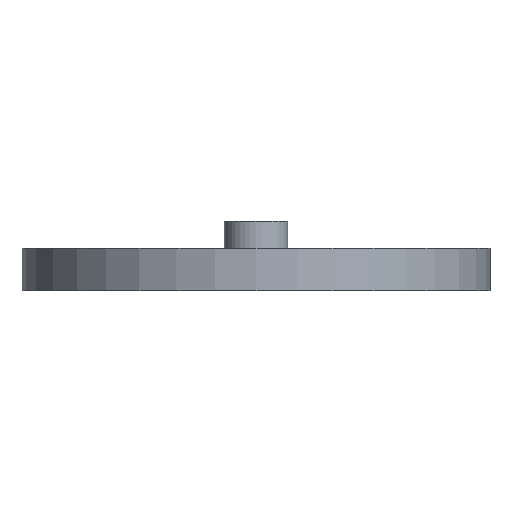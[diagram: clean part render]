
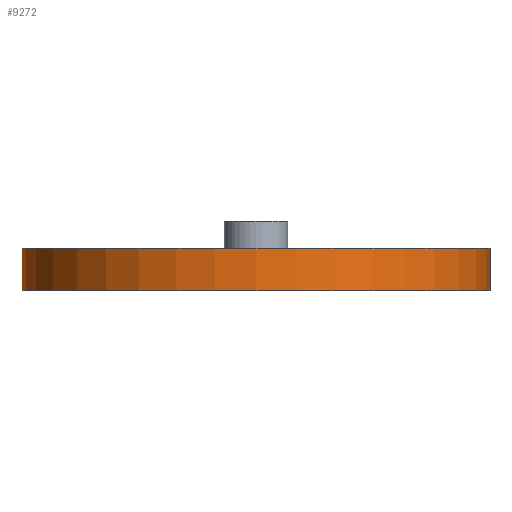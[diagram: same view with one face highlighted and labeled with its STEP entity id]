
A CAD part, left-side view. The second image highlights one B-rep face of the part: STEP entity #9272.
In plain terms, the highlighted cylindrical face has radius 44 mm (diameter 88 mm), a partial arc.
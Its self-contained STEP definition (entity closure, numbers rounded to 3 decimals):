
#596 = CARTESIAN_POINT ( 'NONE',  ( 0., -4., -44. ) ) ;
#2389 = EDGE_LOOP ( 'NONE', ( #16414, #29527, #19819, #5897 ) ) ;
#3748 = CARTESIAN_POINT ( 'NONE',  ( 0., -4., 44. ) ) ;
#3775 = VECTOR ( 'NONE', #11572, 1000. ) ;
#3896 = CARTESIAN_POINT ( 'NONE',  ( 0., 4., -44. ) ) ;
#5549 = DIRECTION ( 'NONE',  ( 0., 0., -1. ) ) ;
#5571 = VERTEX_POINT ( 'NONE', #3748 ) ;
#5897 = ORIENTED_EDGE ( 'NONE', *, *, #8162, .F. ) ;
#6513 = CARTESIAN_POINT ( 'NONE',  ( 0., 4., 0. ) ) ;
#8162 = EDGE_CURVE ( 'NONE', #18211, #31028, #21534, .T. ) ;
#8750 = CIRCLE ( 'NONE', #20131, 44. ) ;
#9213 = EDGE_CURVE ( 'NONE', #17940, #5571, #23394, .T. ) ;
#9272 = ADVANCED_FACE ( 'NONE', ( #36885 ), #33984, .T. ) ;
#9516 = AXIS2_PLACEMENT_3D ( 'NONE', #23904, #26874, #5549 ) ;
#9618 = CIRCLE ( 'NONE', #30721, 44. ) ;
#10586 = CARTESIAN_POINT ( 'NONE',  ( 0., -4., 0. ) ) ;
#11572 = DIRECTION ( 'NONE',  ( 0., -1., 0. ) ) ;
#14031 = DIRECTION ( 'NONE',  ( 0., 0., -1. ) ) ;
#16414 = ORIENTED_EDGE ( 'NONE', *, *, #26314, .T. ) ;
#17940 = VERTEX_POINT ( 'NONE', #30995 ) ;
#18211 = VERTEX_POINT ( 'NONE', #3896 ) ;
#18559 = DIRECTION ( 'NONE',  ( 0., -1., 0. ) ) ;
#19819 = ORIENTED_EDGE ( 'NONE', *, *, #21235, .F. ) ;
#20131 = AXIS2_PLACEMENT_3D ( 'NONE', #6513, #18559, #24891 ) ;
#21235 = EDGE_CURVE ( 'NONE', #31028, #5571, #9618, .T. ) ;
#21534 = LINE ( 'NONE', #22353, #36920 ) ;
#22353 = CARTESIAN_POINT ( 'NONE',  ( 0., 128.451, -44. ) ) ;
#23106 = DIRECTION ( 'NONE',  ( 0., -1., 0. ) ) ;
#23153 = DIRECTION ( 'NONE',  ( 0., -1., 0. ) ) ;
#23394 = LINE ( 'NONE', #24045, #3775 ) ;
#23904 = CARTESIAN_POINT ( 'NONE',  ( 0., 128.451, 0. ) ) ;
#24045 = CARTESIAN_POINT ( 'NONE',  ( 0., 128.451, 44. ) ) ;
#24891 = DIRECTION ( 'NONE',  ( 0., 0., -1. ) ) ;
#26314 = EDGE_CURVE ( 'NONE', #18211, #17940, #8750, .T. ) ;
#26874 = DIRECTION ( 'NONE',  ( 0., -1., 0. ) ) ;
#29527 = ORIENTED_EDGE ( 'NONE', *, *, #9213, .T. ) ;
#30721 = AXIS2_PLACEMENT_3D ( 'NONE', #10586, #23153, #14031 ) ;
#30995 = CARTESIAN_POINT ( 'NONE',  ( 0., 4., 44. ) ) ;
#31028 = VERTEX_POINT ( 'NONE', #596 ) ;
#33984 = CYLINDRICAL_SURFACE ( 'NONE', #9516, 44. ) ;
#36885 = FACE_OUTER_BOUND ( 'NONE', #2389, .T. ) ;
#36920 = VECTOR ( 'NONE', #23106, 1000. ) ;
